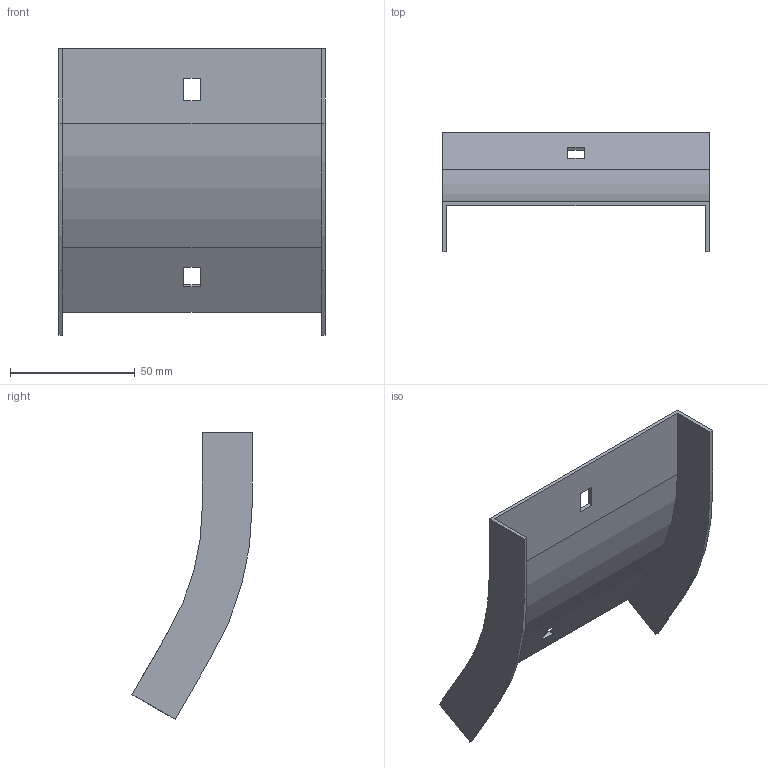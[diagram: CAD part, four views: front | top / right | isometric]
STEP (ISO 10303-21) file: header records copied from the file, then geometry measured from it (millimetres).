
FILE_DESCRIPTION (( 'STEP AP214' ), '1' );
FILE_NAME ('32G1P100.step', '2025-02-21T12:46:55', ( '' ), ( '' ), 'SwSTEP 2.0', 'SolidWorks 2023', '' );
FILE_SCHEMA (( 'AUTOMOTIVE_DESIGN' ));
Length unit declared in the file: millimetre
Products named in the file (1): 32G1P100
Bounding box: 107 x 48.2 x 115.23 mm (x, y, z)
Volume: 24300 mm3; surface area: 33290 mm2
Topology: 1 solids, 1 shells, 26 faces, 72 edges, 48 vertices
Faces by surface type: plane 22, cylinder 4
Entity records: 855 total; most frequent: CARTESIAN_POINT 147, ORIENTED_EDGE 144, DIRECTION 134, EDGE_CURVE 72, VECTOR 64, LINE 64, VERTEX_POINT 48, AXIS2_PLACEMENT_3D 35
